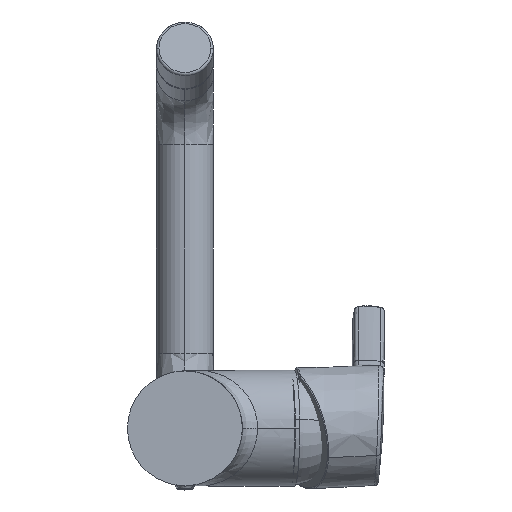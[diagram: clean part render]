
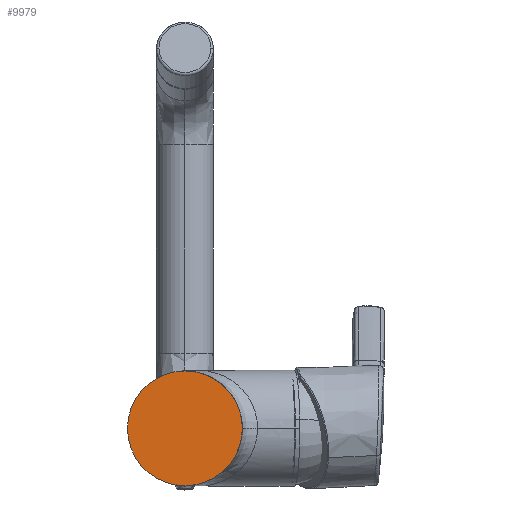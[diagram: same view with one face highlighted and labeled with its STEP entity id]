
A CAD part, front view. The second image highlights one B-rep face of the part: STEP entity #9979.
In plain terms, the highlighted planar face has unit normal (0, -1, 0).
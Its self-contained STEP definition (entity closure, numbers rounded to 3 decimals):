
#759 = VERTEX_POINT ( 'NONE', #9985 ) ;
#766 = DIRECTION ( 'NONE',  ( 0., 1., 0. ) ) ;
#1035 = ORIENTED_EDGE ( 'NONE', *, *, #6555, .F. ) ;
#1315 = FACE_OUTER_BOUND ( 'NONE', #5432, .T. ) ;
#3142 = AXIS2_PLACEMENT_3D ( 'NONE', #11267, #3794, #12515 ) ;
#3384 = AXIS2_PLACEMENT_3D ( 'NONE', #8239, #766, #9489 ) ;
#3690 = DIRECTION ( 'NONE',  ( 1., 0., 0. ) ) ;
#3794 = DIRECTION ( 'NONE',  ( 0., 1., 0. ) ) ;
#5432 = EDGE_LOOP ( 'NONE', ( #8328, #1035 ) ) ;
#6405 = CIRCLE ( 'NONE', #3384, 23. ) ;
#6508 = AXIS2_PLACEMENT_3D ( 'NONE', #14850, #11163, #3690 ) ;
#6555 = EDGE_CURVE ( 'NONE', #8546, #759, #6405, .T. ) ;
#8239 = CARTESIAN_POINT ( 'NONE',  ( -622.672, 405.177, 792.886 ) ) ;
#8328 = ORIENTED_EDGE ( 'NONE', *, *, #14465, .F. ) ;
#8546 = VERTEX_POINT ( 'NONE', #13665 ) ;
#9489 = DIRECTION ( 'NONE',  ( -1., 0., 0. ) ) ;
#9979 = ADVANCED_FACE ( 'NONE', ( #1315 ), #15823, .F. ) ;
#9985 = CARTESIAN_POINT ( 'NONE',  ( -645.672, 405.177, 792.886 ) ) ;
#11163 = DIRECTION ( 'NONE',  ( 0., 1., 0. ) ) ;
#11267 = CARTESIAN_POINT ( 'NONE',  ( -622.672, 405.177, 792.886 ) ) ;
#11886 = CIRCLE ( 'NONE', #3142, 23. ) ;
#12515 = DIRECTION ( 'NONE',  ( -1., 0., 0. ) ) ;
#13665 = CARTESIAN_POINT ( 'NONE',  ( -599.672, 405.177, 792.886 ) ) ;
#14465 = EDGE_CURVE ( 'NONE', #759, #8546, #11886, .T. ) ;
#14850 = CARTESIAN_POINT ( 'NONE',  ( -622.672, 405.177, 792.886 ) ) ;
#15823 = PLANE ( 'NONE',  #6508 ) ;
